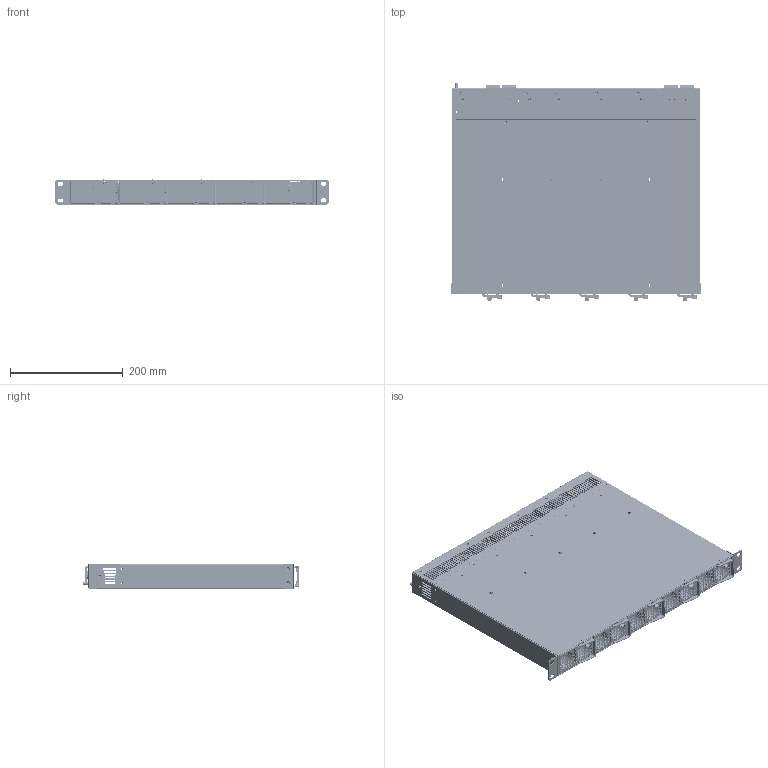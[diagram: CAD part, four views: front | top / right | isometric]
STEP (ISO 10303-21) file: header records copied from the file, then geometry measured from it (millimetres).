
FILE_DESCRIPTION(('Creo Elements/Direct Modeling STEP Export'),'2;1');
FILE_NAME('RHP-1UI.stp','2017-01-10T13:48:07',(''),(''),'PTC Creo Elements/Direct Modeling STEP processor for AP214 (Solid Model)','PTC Creo Elements/Direct Modeling 19.0 09-May-2014 (C) Parametric Technology GmbH','');
FILE_SCHEMA(('AUTOMOTIVE_DESIGN { 1 0 10303 214 1 1 1 1 }'));
Length unit declared in the file: millimetre
Products named in the file (56): SOKECT.1.1.1.1; 底蓋.1; ˋ°Ûy; 底蓋; 底; p2; p1; p1.1; 下蓋組; ¤ïÊlÛyÊ\S\; ¤ïÊlÛyÊ§',
; ¨Ã£\; PHONE_JACK.1.1; 9727R_PCB; Standard; 9727R_PHII; ¨■¥ñ.1.1.1.1.1.1.1.1.1; SUB-9PIN; ¨■; cu2.1.1.1.1.2; SS; pcb; 後PCB; 把手1; 銅片66; 把手B; a1; a2.1; B單機.1; B單機; C-B; C-C; a2; M3-7L.1; ÊU£\; FN; a1.3; MHL-24; MHL-24.stp; hs ...
Assembly tree (76 placements, depth 8):
  ¤ïÊlÛyÊ\S\
  ¤ïÊlÛyÊ§',

  ¤ïÊlÛyÊ\S\
  RHP-1UI
    後端子A
    後SOKB
    小板  x5
      PCB2
    單機.1.1.1.1  x5
      V
      a1
        mos
          TR-4RL.stp
            TR-4RL
        952.1
          hs
          SS
          FN  x2
          MHL-24.stp
            MHL-24
          a1
          a1.3
        a1
          把手B
        p2
        ÊU£\
          M3-7L.1
      a2
        C-C
        C-B
          B單機
          B單機.1
      a2.1
    SOKECT.1.1.1.1  x5
    a1
      把手B
    銅片66
    把手1
    後PCB
      pcb
      SS
        cu2.1.1.1.1.2  x4
        ¨■
          ¨■¥ñ.1.1.1.1.1.1.1.1.1  x5
          SUB-9PIN
          9727R_PHII
            Standard
              9727R_PCB
                PHONE_JACK.1.1
        ¨Ã£\
    下蓋組
      p1.1
      p1
      p2  x4
      底
        底蓋
        ˋ°Ûy
        底蓋.1
Bounding box: 483.6 x 387.21 x 44.3 mm (x, y, z)
Volume: 1042140.9 mm3; surface area: 1628287.3 mm2
Topology: 76 solids, 76 shells, 6251 faces, 17283 edges, 11295 vertices
Faces by surface type: plane 4162, cylinder 1734, cone 204, torus 146, bspline 5
Entity records: 79504 total; most frequent: CARTESIAN_POINT 14599, ORIENTED_EDGE 13488, DIRECTION 12651, EDGE_CURVE 6744, VECTOR 4629, LINE 4629, VERTEX_POINT 4401, AXIS2_PLACEMENT_3D 4011
